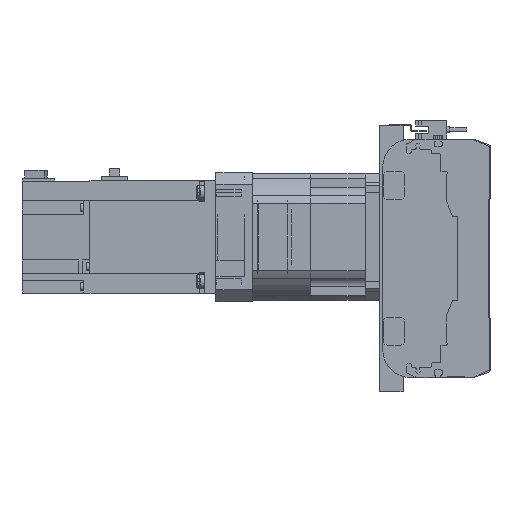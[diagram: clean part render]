
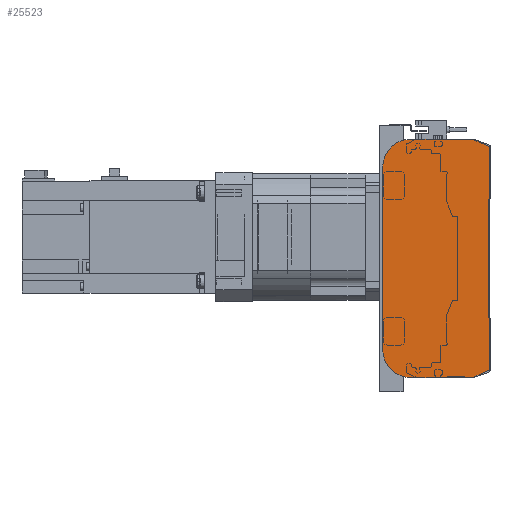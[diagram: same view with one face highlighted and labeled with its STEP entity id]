
A CAD part, left-side view. The second image highlights one B-rep face of the part: STEP entity #25523.
In plain terms, the highlighted planar face has unit normal (-1, 0, 0).
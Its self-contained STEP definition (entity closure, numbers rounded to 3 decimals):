
#1983=CIRCLE('',#27925,2.);
#1984=CIRCLE('',#27928,2.);
#1985=CIRCLE('',#27931,20.);
#1986=CIRCLE('',#27934,20.);
#7332=ORIENTED_EDGE('',*,*,#12235,.F.);
#7333=ORIENTED_EDGE('',*,*,#12313,.F.);
#7334=ORIENTED_EDGE('',*,*,#12311,.F.);
#7335=ORIENTED_EDGE('',*,*,#12309,.F.);
#7336=ORIENTED_EDGE('',*,*,#12002,.F.);
#7337=ORIENTED_EDGE('',*,*,#12308,.F.);
#7338=ORIENTED_EDGE('',*,*,#12306,.F.);
#7339=ORIENTED_EDGE('',*,*,#12304,.F.);
#7340=ORIENTED_EDGE('',*,*,#12302,.F.);
#7341=ORIENTED_EDGE('',*,*,#12300,.F.);
#12002=EDGE_CURVE('',#14804,#14805,#16962,.T.);
#12235=EDGE_CURVE('',#14876,#14877,#17076,.T.);
#12300=EDGE_CURVE('',#14877,#14918,#17121,.T.);
#12302=EDGE_CURVE('',#14918,#14919,#1983,.T.);
#12304=EDGE_CURVE('',#14919,#14920,#17124,.T.);
#12306=EDGE_CURVE('',#14920,#14921,#1984,.T.);
#12308=EDGE_CURVE('',#14921,#14804,#17127,.T.);
#12309=EDGE_CURVE('',#14805,#14922,#1985,.T.);
#12311=EDGE_CURVE('',#14922,#14923,#17129,.T.);
#12313=EDGE_CURVE('',#14923,#14876,#1986,.T.);
#14804=VERTEX_POINT('',#43132);
#14805=VERTEX_POINT('',#43134);
#14876=VERTEX_POINT('',#43490);
#14877=VERTEX_POINT('',#43492);
#14918=VERTEX_POINT('',#43622);
#14919=VERTEX_POINT('',#43626);
#14920=VERTEX_POINT('',#43630);
#14921=VERTEX_POINT('',#43634);
#14922=VERTEX_POINT('',#43640);
#14923=VERTEX_POINT('',#43644);
#16962=LINE('',#43133,#19067);
#17076=LINE('',#43491,#19181);
#17121=LINE('',#43621,#19226);
#17124=LINE('',#43629,#19229);
#17127=LINE('',#43637,#19232);
#17129=LINE('',#43643,#19234);
#19067=VECTOR('',#33811,1000.);
#19181=VECTOR('',#34269,1000.);
#19226=VECTOR('',#34402,1000.);
#19229=VECTOR('',#34411,1000.);
#19232=VECTOR('',#34420,1000.);
#19234=VECTOR('',#34428,1000.);
#20928=EDGE_LOOP('',(#7332,#7333,#7334,#7335,#7336,#7337,#7338,#7339,#7340,
#7341));
#23029=FACE_BOUND('',#20928,.T.);
#24262=PLANE('',#27936);
#25523=ADVANCED_FACE('',(#23029),#24262,.F.);
#27925=AXIS2_PLACEMENT_3D('',#43625,#34406,#34407);
#27928=AXIS2_PLACEMENT_3D('',#43633,#34415,#34416);
#27931=AXIS2_PLACEMENT_3D('',#43639,#34423,#34424);
#27934=AXIS2_PLACEMENT_3D('',#43647,#34432,#34433);
#27936=AXIS2_PLACEMENT_3D('',#43649,#34436,#34437);
#33811=DIRECTION('',(0.,1.,0.));
#34269=DIRECTION('',(0.,-1.,0.));
#34402=DIRECTION('',(0.,-0.913,-0.408));
#34406=DIRECTION('',(1.,0.,0.));
#34407=DIRECTION('',(0.,0.,-1.));
#34411=DIRECTION('',(0.,0.,-1.));
#34415=DIRECTION('',(1.,0.,0.));
#34416=DIRECTION('',(0.,0.,-1.));
#34420=DIRECTION('',(0.,0.913,-0.408));
#34423=DIRECTION('',(1.,0.,0.));
#34424=DIRECTION('',(0.,0.,-1.));
#34428=DIRECTION('',(0.,0.,1.));
#34432=DIRECTION('',(1.,0.,0.));
#34433=DIRECTION('',(0.,0.,-1.));
#34436=DIRECTION('',(1.,0.,0.));
#34437=DIRECTION('',(0.,0.,-1.));
#43132=CARTESIAN_POINT('',(0.,12.33,-85.));
#43133=CARTESIAN_POINT('',(0.,12.33,-85.));
#43134=CARTESIAN_POINT('',(0.,56.5,-85.));
#43490=CARTESIAN_POINT('',(0.,56.5,85.));
#43491=CARTESIAN_POINT('',(0.,56.5,85.));
#43492=CARTESIAN_POINT('',(0.,12.33,85.));
#43621=CARTESIAN_POINT('',(0.,12.33,85.));
#43622=CARTESIAN_POINT('',(0.,1.684,80.239));
#43625=CARTESIAN_POINT('',(0.,2.5,78.413));
#43626=CARTESIAN_POINT('',(0.,0.5,78.413));
#43629=CARTESIAN_POINT('',(0.,0.5,78.413));
#43630=CARTESIAN_POINT('',(0.,0.5,-78.413));
#43633=CARTESIAN_POINT('',(0.,2.5,-78.413));
#43634=CARTESIAN_POINT('',(0.,1.684,-80.239));
#43637=CARTESIAN_POINT('',(0.,1.684,-80.239));
#43639=CARTESIAN_POINT('',(0.,56.5,-65.));
#43640=CARTESIAN_POINT('',(0.,76.5,-65.));
#43643=CARTESIAN_POINT('',(0.,76.5,-65.));
#43644=CARTESIAN_POINT('',(0.,76.5,65.));
#43647=CARTESIAN_POINT('',(0.,56.5,65.));
#43649=CARTESIAN_POINT('',(0.,2.5,78.413));
